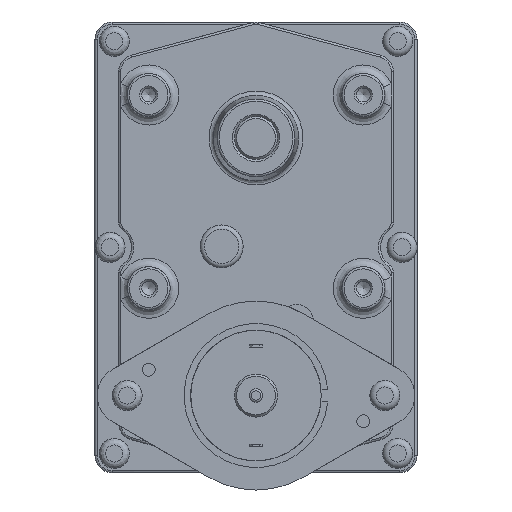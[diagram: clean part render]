
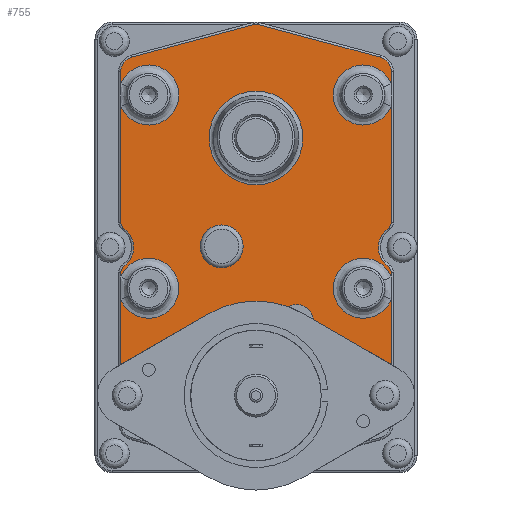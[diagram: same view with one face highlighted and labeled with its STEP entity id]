
A CAD part, front view. The second image highlights one B-rep face of the part: STEP entity #755.
In plain terms, the highlighted planar face has unit normal (0, -1, 0).
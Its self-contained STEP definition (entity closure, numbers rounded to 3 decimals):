
#471=CARTESIAN_POINT('',(-10.909,-35.0,0.));
#472=VERTEX_POINT('',#471);
#473=CARTESIAN_POINT('',(0.0,-35.0,0.0));
#474=DIRECTION('',(0.0,-1.0,0.0));
#475=DIRECTION('',(1.0,0.0,0.0));
#476=AXIS2_PLACEMENT_3D('',#473,#474,#475);
#477=CIRCLE('',#476,10.909);
#478=EDGE_CURVE('',#472,#472,#477,.T.);
#503=CARTESIAN_POINT('',(0.,-35.0,-25.5));
#504=DIRECTION('',(0.0,1.0,0.0));
#505=DIRECTION('',(0.0,0.0,1.0));
#506=AXIS2_PLACEMENT_3D('',#503,#504,#505);
#507=PLANE('',#506);
#508=CARTESIAN_POINT('',(31.5,-35.0,-32.402));
#509=VERTEX_POINT('',#508);
#510=CARTESIAN_POINT('',(31.5,-35.0,-37.598));
#511=VERTEX_POINT('',#510);
#512=CARTESIAN_POINT('',(25.,-35.0,-35.0));
#513=DIRECTION('',(0.0,-1.0,0.0));
#514=DIRECTION('',(-1.0,0.0,0.0));
#515=AXIS2_PLACEMENT_3D('',#512,#513,#514);
#516=CIRCLE('',#515,7.0);
#517=EDGE_CURVE('',#509,#511,#516,.T.);
#518=ORIENTED_EDGE('',*,*,#517,.F.);
#519=CARTESIAN_POINT('',(31.5,-35.0,-31.245));
#520=VERTEX_POINT('',#519);
#521=CARTESIAN_POINT('',(31.5,-35.0,-31.245));
#522=DIRECTION('',(0.0,0.0,-1.0));
#523=VECTOR('',#522,1.157);
#524=LINE('',#521,#523);
#525=EDGE_CURVE('',#520,#509,#524,.T.);
#526=ORIENTED_EDGE('',*,*,#525,.F.);
#527=CARTESIAN_POINT('',(30.857,-35.0,-30.014));
#528=VERTEX_POINT('',#527);
#529=CARTESIAN_POINT('',(30.0,-35.0,-31.245));
#530=DIRECTION('',(0.0,1.0,0.0));
#531=DIRECTION('',(0.886,0.0,0.463));
#532=AXIS2_PLACEMENT_3D('',#529,#530,#531);
#533=CIRCLE('',#532,1.5);
#534=EDGE_CURVE('',#528,#520,#533,.T.);
#535=ORIENTED_EDGE('',*,*,#534,.F.);
#536=CARTESIAN_POINT('',(30.857,-35.0,-20.986));
#537=VERTEX_POINT('',#536);
#538=CARTESIAN_POINT('',(34.0,-35.0,-25.5));
#539=DIRECTION('',(0.0,-1.0,0.0));
#540=DIRECTION('',(-1.0,0.0,0.0));
#541=AXIS2_PLACEMENT_3D('',#538,#539,#540);
#542=CIRCLE('',#541,5.5);
#543=EDGE_CURVE('',#537,#528,#542,.T.);
#544=ORIENTED_EDGE('',*,*,#543,.F.);
#545=CARTESIAN_POINT('',(31.5,-35.0,-19.755));
#546=VERTEX_POINT('',#545);
#547=CARTESIAN_POINT('',(30.0,-35.0,-19.755));
#548=DIRECTION('',(0.0,1.0,0.0));
#549=DIRECTION('',(0.886,0.0,-0.463));
#550=AXIS2_PLACEMENT_3D('',#547,#548,#549);
#551=CIRCLE('',#550,1.5);
#552=EDGE_CURVE('',#546,#537,#551,.T.);
#553=ORIENTED_EDGE('',*,*,#552,.F.);
#554=CARTESIAN_POINT('',(31.5,-35.0,7.402));
#555=VERTEX_POINT('',#554);
#556=CARTESIAN_POINT('',(31.5,-35.0,7.402));
#557=DIRECTION('',(0.0,0.0,-1.0));
#558=VECTOR('',#557,27.157);
#559=LINE('',#556,#558);
#560=EDGE_CURVE('',#555,#546,#559,.T.);
#561=ORIENTED_EDGE('',*,*,#560,.F.);
#562=CARTESIAN_POINT('',(31.5,-35.0,12.598));
#563=VERTEX_POINT('',#562);
#564=CARTESIAN_POINT('',(25.0,-35.0,10.0));
#565=DIRECTION('',(0.0,-1.0,0.0));
#566=DIRECTION('',(-1.0,0.0,0.0));
#567=AXIS2_PLACEMENT_3D('',#564,#565,#566);
#568=CIRCLE('',#567,7.0);
#569=EDGE_CURVE('',#563,#555,#568,.T.);
#570=ORIENTED_EDGE('',*,*,#569,.F.);
#571=CARTESIAN_POINT('',(31.5,-35.0,15.427));
#572=VERTEX_POINT('',#571);
#573=CARTESIAN_POINT('',(31.5,-35.0,15.427));
#574=DIRECTION('',(0.0,0.0,-1.0));
#575=VECTOR('',#574,2.829);
#576=LINE('',#573,#575);
#577=EDGE_CURVE('',#572,#563,#576,.T.);
#578=ORIENTED_EDGE('',*,*,#577,.F.);
#579=CARTESIAN_POINT('',(28.906,-35.0,18.808));
#580=VERTEX_POINT('',#579);
#581=CARTESIAN_POINT('',(28.,-35.0,15.427));
#582=DIRECTION('',(0.0,1.,0.0));
#583=DIRECTION('',(0.793,0.0,0.609));
#584=AXIS2_PLACEMENT_3D('',#581,#582,#583);
#585=CIRCLE('',#584,3.5);
#586=EDGE_CURVE('',#580,#572,#585,.T.);
#587=ORIENTED_EDGE('',*,*,#586,.F.);
#588=CARTESIAN_POINT('',(0.388,-35.0,26.449));
#589=VERTEX_POINT('',#588);
#590=CARTESIAN_POINT('',(0.388,-35.0,26.449));
#591=DIRECTION('',(0.966,0.0,-0.259));
#592=VECTOR('',#591,29.524);
#593=LINE('',#590,#592);
#594=EDGE_CURVE('',#589,#580,#593,.T.);
#595=ORIENTED_EDGE('',*,*,#594,.F.);
#596=CARTESIAN_POINT('',(-0.388,-35.0,26.449));
#597=VERTEX_POINT('',#596);
#598=CARTESIAN_POINT('',(0.0,-35.0,25.));
#599=DIRECTION('',(0.0,1.0,0.0));
#600=DIRECTION('',(0.0,0.0,1.0));
#601=AXIS2_PLACEMENT_3D('',#598,#599,#600);
#602=CIRCLE('',#601,1.5);
#603=EDGE_CURVE('',#597,#589,#602,.T.);
#604=ORIENTED_EDGE('',*,*,#603,.F.);
#605=CARTESIAN_POINT('',(-28.906,-35.0,18.808));
#606=VERTEX_POINT('',#605);
#607=CARTESIAN_POINT('',(-28.906,-35.0,18.808));
#608=DIRECTION('',(0.966,0.0,0.259));
#609=VECTOR('',#608,29.524);
#610=LINE('',#607,#609);
#611=EDGE_CURVE('',#606,#597,#610,.T.);
#612=ORIENTED_EDGE('',*,*,#611,.F.);
#613=CARTESIAN_POINT('',(-31.5,-35.0,15.427));
#614=VERTEX_POINT('',#613);
#615=CARTESIAN_POINT('',(-28.,-35.0,15.427));
#616=DIRECTION('',(0.0,1.0,0.0));
#617=DIRECTION('',(-0.793,0.0,0.609));
#618=AXIS2_PLACEMENT_3D('',#615,#616,#617);
#619=CIRCLE('',#618,3.5);
#620=EDGE_CURVE('',#614,#606,#619,.T.);
#621=ORIENTED_EDGE('',*,*,#620,.F.);
#622=CARTESIAN_POINT('',(-31.5,-35.0,12.598));
#623=VERTEX_POINT('',#622);
#624=CARTESIAN_POINT('',(-31.5,-35.0,12.598));
#625=DIRECTION('',(0.0,0.0,1.0));
#626=VECTOR('',#625,2.829);
#627=LINE('',#624,#626);
#628=EDGE_CURVE('',#623,#614,#627,.T.);
#629=ORIENTED_EDGE('',*,*,#628,.F.);
#630=CARTESIAN_POINT('',(-31.5,-35.0,7.402));
#631=VERTEX_POINT('',#630);
#632=CARTESIAN_POINT('',(-25.0,-35.0,10.0));
#633=DIRECTION('',(0.0,-1.0,0.0));
#634=DIRECTION('',(-1.0,0.0,0.0));
#635=AXIS2_PLACEMENT_3D('',#632,#633,#634);
#636=CIRCLE('',#635,7.0);
#637=EDGE_CURVE('',#631,#623,#636,.T.);
#638=ORIENTED_EDGE('',*,*,#637,.F.);
#639=CARTESIAN_POINT('',(-31.5,-35.0,-19.755));
#640=VERTEX_POINT('',#639);
#641=CARTESIAN_POINT('',(-31.5,-35.0,-19.755));
#642=DIRECTION('',(0.0,0.0,1.0));
#643=VECTOR('',#642,27.157);
#644=LINE('',#641,#643);
#645=EDGE_CURVE('',#640,#631,#644,.T.);
#646=ORIENTED_EDGE('',*,*,#645,.F.);
#647=CARTESIAN_POINT('',(-30.857,-35.0,-20.986));
#648=VERTEX_POINT('',#647);
#649=CARTESIAN_POINT('',(-30.0,-35.0,-19.755));
#650=DIRECTION('',(0.0,1.0,0.0));
#651=DIRECTION('',(-0.886,0.0,-0.463));
#652=AXIS2_PLACEMENT_3D('',#649,#650,#651);
#653=CIRCLE('',#652,1.5);
#654=EDGE_CURVE('',#648,#640,#653,.T.);
#655=ORIENTED_EDGE('',*,*,#654,.F.);
#656=CARTESIAN_POINT('',(-30.857,-35.0,-30.014));
#657=VERTEX_POINT('',#656);
#658=CARTESIAN_POINT('',(-34.0,-35.0,-25.5));
#659=DIRECTION('',(0.0,-1.0,0.0));
#660=DIRECTION('',(1.0,0.0,0.0));
#661=AXIS2_PLACEMENT_3D('',#658,#659,#660);
#662=CIRCLE('',#661,5.5);
#663=EDGE_CURVE('',#657,#648,#662,.T.);
#664=ORIENTED_EDGE('',*,*,#663,.F.);
#665=CARTESIAN_POINT('',(-31.5,-35.0,-31.245));
#666=VERTEX_POINT('',#665);
#667=CARTESIAN_POINT('',(-30.0,-35.0,-31.245));
#668=DIRECTION('',(0.0,1.0,0.0));
#669=DIRECTION('',(-0.886,0.0,0.463));
#670=AXIS2_PLACEMENT_3D('',#667,#668,#669);
#671=CIRCLE('',#670,1.5);
#672=EDGE_CURVE('',#666,#657,#671,.T.);
#673=ORIENTED_EDGE('',*,*,#672,.F.);
#674=CARTESIAN_POINT('',(-31.5,-35.0,-32.402));
#675=VERTEX_POINT('',#674);
#676=CARTESIAN_POINT('',(-31.5,-35.0,-32.402));
#677=DIRECTION('',(0.0,0.0,1.0));
#678=VECTOR('',#677,1.157);
#679=LINE('',#676,#678);
#680=EDGE_CURVE('',#675,#666,#679,.T.);
#681=ORIENTED_EDGE('',*,*,#680,.F.);
#682=CARTESIAN_POINT('',(-31.5,-35.0,-37.598));
#683=VERTEX_POINT('',#682);
#684=CARTESIAN_POINT('',(-25.,-35.0,-35.0));
#685=DIRECTION('',(0.0,-1.0,0.0));
#686=DIRECTION('',(-1.0,0.0,0.0));
#687=AXIS2_PLACEMENT_3D('',#684,#685,#686);
#688=CIRCLE('',#687,7.0);
#689=EDGE_CURVE('',#683,#675,#688,.T.);
#690=ORIENTED_EDGE('',*,*,#689,.F.);
#691=CARTESIAN_POINT('',(-31.5,-35.0,-52.783));
#692=VERTEX_POINT('',#691);
#693=CARTESIAN_POINT('',(-31.5,-35.0,-52.783));
#694=DIRECTION('',(0.0,0.0,1.0));
#695=VECTOR('',#694,15.185);
#696=LINE('',#693,#695);
#697=EDGE_CURVE('',#692,#683,#696,.T.);
#698=ORIENTED_EDGE('',*,*,#697,.F.);
#699=CARTESIAN_POINT('',(-11.,-35.0,-40.947));
#700=VERTEX_POINT('',#699);
#701=CARTESIAN_POINT('',(-31.5,-35.0,-52.783));
#702=DIRECTION('',(0.866,0.0,0.5));
#703=VECTOR('',#702,23.671);
#704=LINE('',#701,#703);
#705=EDGE_CURVE('',#692,#700,#704,.T.);
#706=ORIENTED_EDGE('',*,*,#705,.T.);
#707=CARTESIAN_POINT('',(7.452,-35.0,-39.301));
#708=VERTEX_POINT('',#707);
#709=CARTESIAN_POINT('',(0.0,-35.0,-60.0));
#710=DIRECTION('',(0.0,1.0,0.0));
#711=DIRECTION('',(1.0,0.0,0.0));
#712=AXIS2_PLACEMENT_3D('',#709,#710,#711);
#713=CIRCLE('',#712,22.0);
#714=EDGE_CURVE('',#700,#708,#713,.T.);
#715=ORIENTED_EDGE('',*,*,#714,.T.);
#716=CARTESIAN_POINT('',(13.372,-35.0,-42.317));
#717=VERTEX_POINT('',#716);
#718=CARTESIAN_POINT('',(9.401,-35.0,-42.794));
#719=DIRECTION('',(0.0,1.0,0.0));
#720=DIRECTION('',(-1.0,0.0,0.0));
#721=AXIS2_PLACEMENT_3D('',#718,#719,#720);
#722=CIRCLE('',#721,4.0);
#723=EDGE_CURVE('',#708,#717,#722,.T.);
#724=ORIENTED_EDGE('',*,*,#723,.T.);
#725=CARTESIAN_POINT('',(31.5,-35.0,-52.783));
#726=VERTEX_POINT('',#725);
#727=CARTESIAN_POINT('',(13.372,-35.0,-42.317));
#728=DIRECTION('',(0.866,0.0,-0.5));
#729=VECTOR('',#728,20.932);
#730=LINE('',#727,#729);
#731=EDGE_CURVE('',#717,#726,#730,.T.);
#732=ORIENTED_EDGE('',*,*,#731,.T.);
#733=CARTESIAN_POINT('',(31.5,-35.0,-37.598));
#734=DIRECTION('',(0.0,0.0,-1.0));
#735=VECTOR('',#734,15.185);
#736=LINE('',#733,#735);
#737=EDGE_CURVE('',#511,#726,#736,.T.);
#738=ORIENTED_EDGE('',*,*,#737,.F.);
#739=EDGE_LOOP('',(#518,#526,#535,#544,#553,#561,#570,#578,#587,#595,#604,#612,#621,#629,#638,#646,#655,#664,#673,#681,#690,#698,#706,#715,#724,#732,#738));
#740=FACE_OUTER_BOUND('',#739,.T.);
#741=CARTESIAN_POINT('',(-3.,-35.0,-25.264));
#742=VERTEX_POINT('',#741);
#743=CARTESIAN_POINT('',(-8.0,-35.0,-25.264));
#744=DIRECTION('',(0.0,1.0,0.0));
#745=DIRECTION('',(-1.0,0.0,0.0));
#746=AXIS2_PLACEMENT_3D('',#743,#744,#745);
#747=CIRCLE('',#746,5.0);
#748=EDGE_CURVE('',#742,#742,#747,.T.);
#749=ORIENTED_EDGE('',*,*,#748,.T.);
#750=EDGE_LOOP('',(#749));
#751=FACE_BOUND('',#750,.T.);
#752=ORIENTED_EDGE('',*,*,#478,.F.);
#753=EDGE_LOOP('',(#752));
#754=FACE_BOUND('',#753,.T.);
#755=ADVANCED_FACE('',(#740,#751,#754),#507,.F.);
